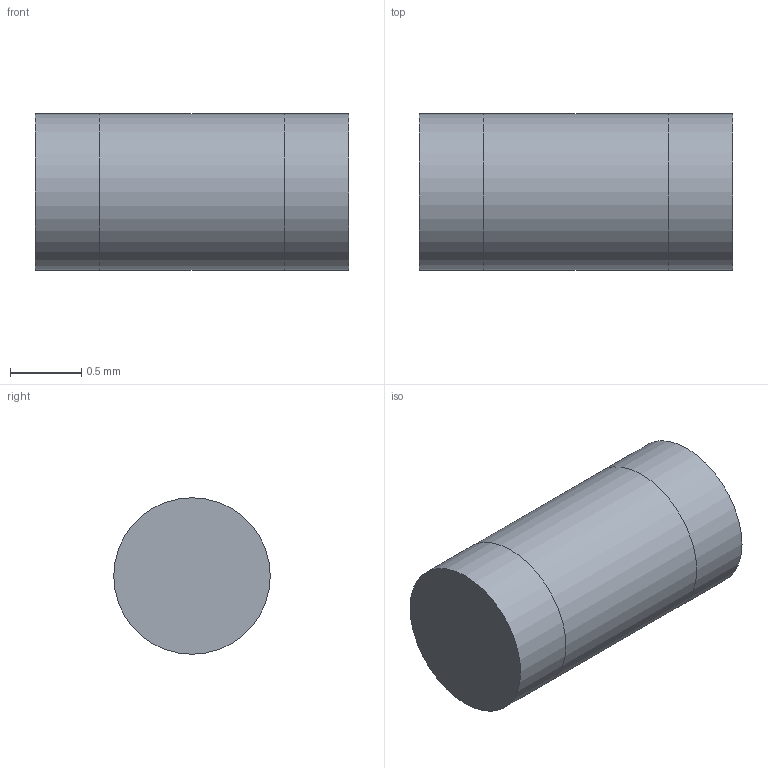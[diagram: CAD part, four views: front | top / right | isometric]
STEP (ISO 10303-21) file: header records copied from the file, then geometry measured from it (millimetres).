
FILE_DESCRIPTION(/* description */ (''),/* implementation_level */ '2;1');
FILE_NAME(/* name */ 'C:\Users\mulla\Documents\SEI Models\Inventor Files\MLFA\MLFA13_stp.stp',/* time_stamp */ '2019-07-09T15:51:17-04:00',/* author */ ('mulla'),/* organization */ (''),/* preprocessor_version */ 'ST-DEVELOPER v16.1',/* originating_system */ 'Autodesk Inventor 2016',/* authorisation */ '');
FILE_SCHEMA (('AUTOMOTIVE_DESIGN { 1 0 10303 214 3 1 1 }'));
Length unit declared in the file: millimetre
Products named in the file (1): MLFA13
Bounding box: 2.2 x 1.1 x 1.1 mm (x, y, z)
Volume: 2.1 mm3; surface area: 13.3 mm2
Topology: 3 solids, 3 shells, 9 faces, 9 edges, 6 vertices
Faces by surface type: plane 6, cylinder 3
Full cylindrical faces by diameter (mm): 1.1 x3
Entity records: 199 total; most frequent: DIRECTION 32, CARTESIAN_POINT 22, AXIS2_PLACEMENT_3D 16, EDGE_LOOP 12, ORIENTED_EDGE 12, STYLED_ITEM 12, FACE_OUTER_BOUND 9, ADVANCED_FACE 9
